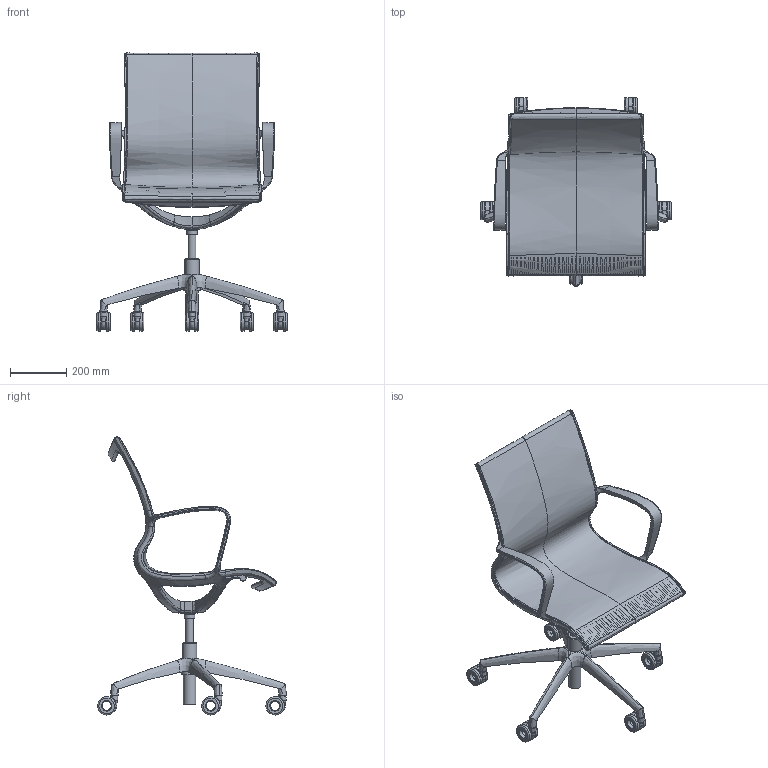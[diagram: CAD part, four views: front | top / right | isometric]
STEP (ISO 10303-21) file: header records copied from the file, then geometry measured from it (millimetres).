
FILE_DESCRIPTION(/* description */ (''),/* implementation_level */ '2;1');
FILE_NAME(/* name */ 'Everyday 750',/* time_stamp */ '2019-05-20T14:55:29+02:00',/* author */ (''),/* organization */ (''),/* preprocessor_version */ 'ST-DEVELOPER v16.5',/* originating_system */ '',/* authorisation */ '');
FILE_SCHEMA (('AUTOMOTIVE_DESIGN'));
Length unit declared in the file: millimetre
Products named in the file (1): Document
Bounding box: 674.7 x 669.92 x 985.83 mm (x, y, z)
Volume: 463279.4 mm3; surface area: 1473031.3 mm2
Topology: 7 solids, 34 shells, 443 faces, 1455 edges, 979 vertices
Faces by surface type: bspline 338, plane 105
Entity records: 41102 total; most frequent: CARTESIAN_POINT 33285, ORIENTED_EDGE 2436, EDGE_CURVE 1442, VERTEX_POINT 973, B_SPLINE_CURVE_WITH_KNOTS 862, EDGE_LOOP 489, ADVANCED_FACE 443, FACE_OUTER_BOUND 443
